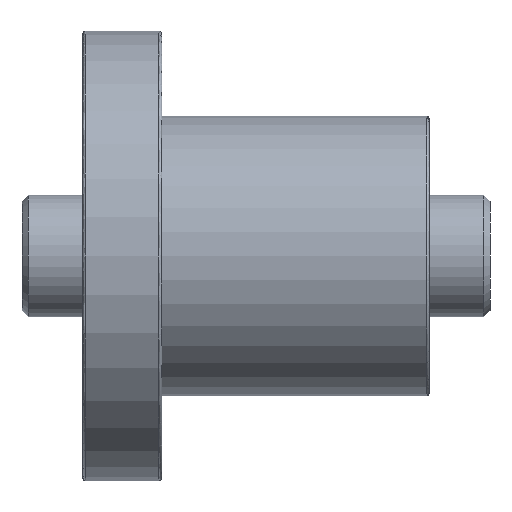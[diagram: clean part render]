
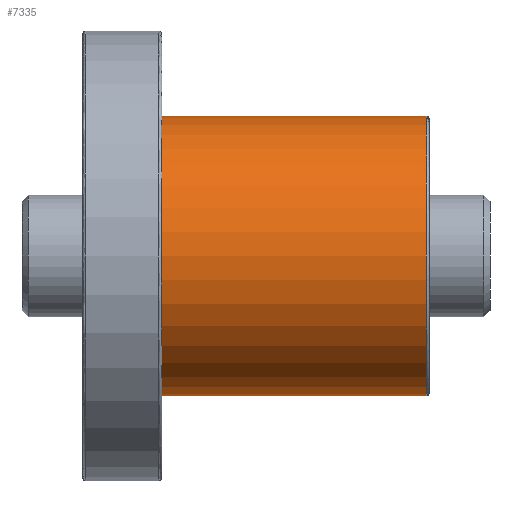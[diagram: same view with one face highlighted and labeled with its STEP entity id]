
A CAD part, front view. The second image highlights one B-rep face of the part: STEP entity #7335.
In plain terms, the highlighted cylindrical face has radius 23 mm (diameter 46 mm), a partial arc.
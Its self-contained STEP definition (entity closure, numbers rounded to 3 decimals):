
#44 = VERTEX_POINT ( 'NONE', #2537 ) ;
#487 = CARTESIAN_POINT ( 'NONE',  ( 13., 0., 23. ) ) ;
#566 = ORIENTED_EDGE ( 'NONE', *, *, #2418, .T. ) ;
#1350 = CARTESIAN_POINT ( 'NONE',  ( 57., 0., 0. ) ) ;
#1508 = AXIS2_PLACEMENT_3D ( 'NONE', #4824, #6739, #4202 ) ;
#1571 = EDGE_CURVE ( 'NONE', #7581, #3396, #5665, .T. ) ;
#1876 = VECTOR ( 'NONE', #5291, 1000. ) ;
#2140 = EDGE_CURVE ( 'NONE', #44, #6997, #7272, .T. ) ;
#2418 = EDGE_CURVE ( 'NONE', #6997, #7581, #3617, .T. ) ;
#2537 = CARTESIAN_POINT ( 'NONE',  ( 56.5, 0., -23. ) ) ;
#3396 = VERTEX_POINT ( 'NONE', #8462 ) ;
#3473 = VECTOR ( 'NONE', #6708, 1000. ) ;
#3617 = LINE ( 'NONE', #7230, #1876 ) ;
#3703 = AXIS2_PLACEMENT_3D ( 'NONE', #1350, #6526, #7930 ) ;
#3784 = DIRECTION ( 'NONE',  ( -1., 0., 0. ) ) ;
#4202 = DIRECTION ( 'NONE',  ( 0., 0., 1. ) ) ;
#4402 = ORIENTED_EDGE ( 'NONE', *, *, #5952, .F. ) ;
#4590 = ORIENTED_EDGE ( 'NONE', *, *, #1571, .T. ) ;
#4624 = CARTESIAN_POINT ( 'NONE',  ( 57., 0., -23. ) ) ;
#4824 = CARTESIAN_POINT ( 'NONE',  ( 13., 0., 0. ) ) ;
#5291 = DIRECTION ( 'NONE',  ( -1., 0., 0. ) ) ;
#5665 = CIRCLE ( 'NONE', #1508, 23. ) ;
#5952 = EDGE_CURVE ( 'NONE', #44, #3396, #6742, .T. ) ;
#6245 = ORIENTED_EDGE ( 'NONE', *, *, #2140, .T. ) ;
#6312 = DIRECTION ( 'NONE',  ( 0., 0., 1. ) ) ;
#6420 = CARTESIAN_POINT ( 'NONE',  ( 56.5, 0., 0. ) ) ;
#6526 = DIRECTION ( 'NONE',  ( -1., 0., 0. ) ) ;
#6540 = EDGE_LOOP ( 'NONE', ( #4402, #6245, #566, #4590 ) ) ;
#6660 = CARTESIAN_POINT ( 'NONE',  ( 56.5, 0., 23. ) ) ;
#6708 = DIRECTION ( 'NONE',  ( -1., 0., 0. ) ) ;
#6729 = FACE_OUTER_BOUND ( 'NONE', #6540, .T. ) ;
#6739 = DIRECTION ( 'NONE',  ( 1., 0., 0. ) ) ;
#6742 = LINE ( 'NONE', #4624, #3473 ) ;
#6997 = VERTEX_POINT ( 'NONE', #6660 ) ;
#7207 = CYLINDRICAL_SURFACE ( 'NONE', #3703, 23. ) ;
#7230 = CARTESIAN_POINT ( 'NONE',  ( 57., 0., 23. ) ) ;
#7272 = CIRCLE ( 'NONE', #8231, 23. ) ;
#7335 = ADVANCED_FACE ( 'NONE', ( #6729 ), #7207, .T. ) ;
#7581 = VERTEX_POINT ( 'NONE', #487 ) ;
#7930 = DIRECTION ( 'NONE',  ( 0., 0., 1. ) ) ;
#8231 = AXIS2_PLACEMENT_3D ( 'NONE', #6420, #3784, #6312 ) ;
#8462 = CARTESIAN_POINT ( 'NONE',  ( 13., 0., -23. ) ) ;
